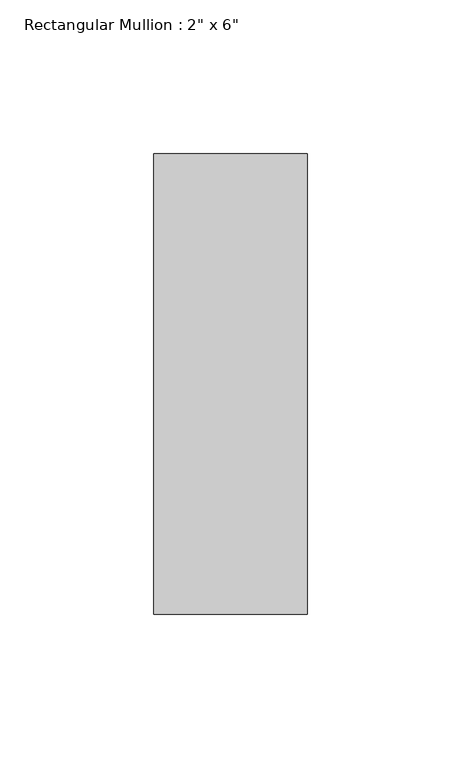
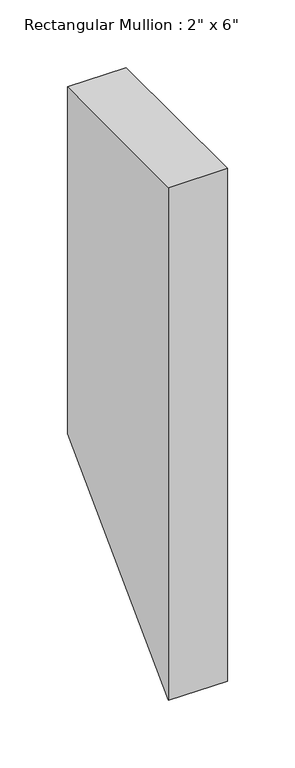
"""IFC4 building model written with IfcOpenShell, lengths in millimetres: member geometry."""

import ifcopenshell
import ifcopenshell.guid

model = None  # the IFC model being written
_history = None  # IfcOwnerHistory: only IFC2X3 demands one
_inside = {}  # id of a spatial element -> (the spatial element, [elements in it])
_under = {}  # id of a project, library or spatial element -> (it, [spatial elements below it])
_declared = {}  # id of a project -> (the project, [libraries it declares])
_typed = {}  # id of a type object -> (the type object, [elements of that type])
_made_of = {}  # id of a material, layer set ... -> (it, [elements and type objects made of it])


def new_model(schema):
    """Start an empty IFC model of exactly this schema.

    Asked for "IFC4X3", IfcOpenShell would pick the latest addendum, in which some entities
    have other attributes; the version numbers below select the first issue.
    IFC2X3 requires an IfcOwnerHistory on every rooted entity: one is made here for all.
    """
    global model, _history
    if schema == "IFC4X3":
        model = ifcopenshell.file(schema_version=(4, 3, 0, 0))
    else:
        model = ifcopenshell.file(schema=schema)
    _inside.clear()
    _under.clear()
    _declared.clear()
    _typed.clear()
    _made_of.clear()
    _history = None
    if model.schema == "IFC2X3":
        org = make("IfcOrganization", Name="unknown")
        user = make(
            "IfcPersonAndOrganization",
            ThePerson=make("IfcPerson", FamilyName="unknown"),
            TheOrganization=org,
        )
        app = make(
            "IfcApplication",
            ApplicationDeveloper=org,
            Version="unknown",
            ApplicationFullName="unknown",
            ApplicationIdentifier="unknown",
        )
        _history = make(
            "IfcOwnerHistory",
            OwningUser=user,
            OwningApplication=app,
            ChangeAction="ADDED",
            CreationDate=0,
        )
    return model


def make(cls, **values):
    """One entity of the class cls with the attributes given. An attribute that is None is left unset."""
    return model.create_entity(
        cls, **{name: value for name, value in values.items() if value is not None}
    )


def rooted(cls, **values):
    """An entity with a GlobalId (a new one), such as an element, a storey or a relation."""
    return make(cls, GlobalId=ifcopenshell.guid.new(), OwnerHistory=_history, **values)


def si_unit(unit_type, name, prefix=None):
    """IfcSIUnit, for example si_unit("LENGTHUNIT", "METRE", prefix="MILLI")."""
    return make("IfcSIUnit", UnitType=unit_type, Prefix=prefix, Name=name)


def assignment(units):
    """IfcUnitAssignment: the units of a project."""
    return None if units is None else make("IfcUnitAssignment", Units=units)


def point(xyz):
    """IfcCartesianPoint."""
    return None if xyz is None else make("IfcCartesianPoint", Coordinates=xyz)


def direction(xyz):
    """IfcDirection."""
    return None if xyz is None else make("IfcDirection", DirectionRatios=xyz)


def frame(location, z_axis=None, x_axis=None):
    """IfcAxis2Placement3D, a coordinate frame: its origin and axes. An axis left out is left unset."""
    return make(
        "IfcAxis2Placement3D",
        Location=point(location),
        Axis=direction(z_axis),
        RefDirection=direction(x_axis),
    )


def origin():
    """The frame at (0, 0, 0) with its axes left unset."""
    return frame((0.0, 0.0, 0.0))


def place(relative_to, where):
    """IfcLocalPlacement: puts the frame where relative to a parent placement (None: the world)."""
    return make(
        "IfcLocalPlacement", PlacementRelTo=relative_to, RelativePlacement=where
    )


def context(
    kind, dimensions, precision=None, world=None, true_north=None, identifier=None
):
    """IfcGeometricRepresentationContext, for example the 3D "Model" context."""
    return make(
        "IfcGeometricRepresentationContext",
        ContextIdentifier=identifier,
        ContextType=kind,
        CoordinateSpaceDimension=dimensions,
        Precision=precision,
        WorldCoordinateSystem=world,
        TrueNorth=true_north,
    )


def project(units=None, contexts=None):
    """IfcProject with its units and contexts."""
    return rooted(
        "IfcProject",
        Name="project",
        RepresentationContexts=contexts,
        UnitsInContext=assignment(units),
    )


def spatial(cls, under=None, at=None, **own):
    """A site, building, storey or space (cls), placed at a placement, below another one or the project."""
    s = rooted(cls, ObjectPlacement=at, **own)
    if under is not None:
        _under.setdefault(under.id(), (under, []))[1].append(s)
    return s


def polyline(points):
    """IfcPolyline through the points."""
    return make("IfcPolyline", Points=[point(p) for p in points])


def outline(outer, holes=None, kind="AREA"):
    """IfcArbitraryClosedProfileDef: a profile drawn as a closed curve; with holes, ...WithVoids."""
    if holes is None:
        return make("IfcArbitraryClosedProfileDef", ProfileType=kind, OuterCurve=outer)
    return make(
        "IfcArbitraryProfileDefWithVoids",
        ProfileType=kind,
        OuterCurve=outer,
        InnerCurves=holes,
    )


def extrude(swept, where, along, depth):
    """IfcExtrudedAreaSolid: the profile swept, set in the frame where, extruded along a direction by depth."""
    return make(
        "IfcExtrudedAreaSolid",
        SweptArea=swept,
        Position=where,
        ExtrudedDirection=direction(along),
        Depth=depth,
    )


def shape(context_of_items, identifier, shape_type, items):
    """IfcShapeRepresentation: the items that make up one representation, for example the "Body"."""
    return make(
        "IfcShapeRepresentation",
        ContextOfItems=context_of_items,
        RepresentationIdentifier=identifier,
        RepresentationType=shape_type,
        Items=items,
    )


def source(mapping_origin, context_of_items, identifier, shape_type, items):
    """IfcRepresentationMap: a shape defined once, which mapped items show again and again."""
    return make(
        "IfcRepresentationMap",
        MappingOrigin=mapping_origin,
        MappedRepresentation=shape(context_of_items, identifier, shape_type, items),
    )


def transform(
    local_origin,
    x_axis=None,
    y_axis=None,
    z_axis=None,
    scale=None,
    scale2=None,
    scale3=None,
    uniform=True,
):
    """IfcCartesianTransformationOperator3D, or its non-uniform kind. x_axis, y_axis, z_axis: its Axis1, 2, 3."""
    if uniform:
        return make(
            "IfcCartesianTransformationOperator3D",
            Axis1=direction(x_axis),
            Axis2=direction(y_axis),
            LocalOrigin=point(local_origin),
            Scale=scale,
            Axis3=direction(z_axis),
        )
    return make(
        "IfcCartesianTransformationOperator3DnonUniform",
        Axis1=direction(x_axis),
        Axis2=direction(y_axis),
        LocalOrigin=point(local_origin),
        Scale=scale,
        Axis3=direction(z_axis),
        Scale2=scale2,
        Scale3=scale3,
    )


def mapped(mapping_source, mapping_target):
    """IfcMappedItem: shows the shape of a source again, moved by a transform."""
    return make(
        "IfcMappedItem", MappingSource=mapping_source, MappingTarget=mapping_target
    )


def made_of(thing, what):
    """Note that an element or type object is made of a material, layer set ...; save() writes the relation."""
    if what is not None:
        _made_of.setdefault(what.id(), (what, []))[1].append(thing)
    return thing


def element(
    cls,
    number,
    at=None,
    inside=None,
    cuts=None,
    type_object=None,
    material=None,
    context=None,
    identifier="Body",
    shape_type=None,
    held_by="IfcProductDefinitionShape",
    body=None,
    shapes=None,
    **own,
):
    """One element of the class cls, such as IfcWall. Its Tag is "e" and its number.

    at: its placement. inside: the storey or other place that contains it. cuts: it is an
    opening in that element (IfcRelVoidsElement). A single representation is given by context,
    identifier, shape_type and body (its items); several are given by shapes. held_by: the class
    of the entity that holds the representations. save() writes the other relations.
    """
    e = rooted(cls, Tag="e%d" % number, ObjectPlacement=at, **own)
    if body is not None:
        shapes = [shape(context, identifier, shape_type, body)]
    if shapes is not None:
        e.Representation = make(held_by, Representations=shapes)
    if inside is not None:
        _inside.setdefault(inside.id(), (inside, []))[1].append(e)
    if cuts is not None:
        rooted(
            "IfcRelVoidsElement", RelatingBuildingElement=cuts, RelatedOpeningElement=e
        )
    if type_object is not None:
        _typed.setdefault(type_object.id(), (type_object, []))[1].append(e)
    return made_of(e, material)


def aggregate(whole, parts):
    """IfcRelAggregates: a whole, such as a stair, and the parts it consists of."""
    return rooted("IfcRelAggregates", RelatingObject=whole, RelatedObjects=parts)


def save(model, path):
    """Write the relations noted so far, then the file.

    IfcRelAggregates (storeys below a building ...), IfcRelContainedInSpatialStructure (elements
    in a storey), IfcRelDefinesByType, IfcRelAssociatesMaterial and IfcRelDeclares: one each for
    every whole, place, type object, material and project.
    """
    for whole, parts in _under.values():
        aggregate(whole, parts)
    for where, things in _inside.values():
        rooted(
            "IfcRelContainedInSpatialStructure",
            RelatedElements=things,
            RelatingStructure=where,
        )
    for kind, things in _typed.values():
        rooted("IfcRelDefinesByType", RelatedObjects=things, RelatingType=kind)
    for what, things in _made_of.values():
        rooted("IfcRelAssociatesMaterial", RelatedObjects=things, RelatingMaterial=what)
    for by, libraries in _declared.values():
        rooted("IfcRelDeclares", RelatingContext=by, RelatedDefinitions=libraries)
    model.write(path)


def member_16a7e1d8(model_context):
    return source(origin(), model_context, "Body", "SweptSolid", [
        extrude(outline(polyline([(0.0, 0.0), (150.0, 0.0), (150.0, -312.9999994), (0.0, -462.9999994), (0.0, 0.0)])), frame((-25.0, 0.0, 0.0), z_axis=(1.0, 0.0, 0.0), x_axis=(0.0, 1.0, 0.0)), (0.0, 0.0, 1.0), 50.0),
    ])


if __name__ == "__main__":
    model = new_model("IFC4")
    model_context = context("Model", 3, world=origin())
    ifc_project = project(units=[si_unit("LENGTHUNIT", "METRE", prefix="MILLI")], contexts=[model_context])
    site = spatial("IfcSite", under=ifc_project)
    building = spatial("IfcBuilding", under=site)
    placement = place(None, origin())
    member_shape = member_16a7e1d8(model_context)
    element("IfcMember", 1, ObjectType="Rectangular Mullion : 2\" x 6\"", at=placement, inside=building, context=model_context, shape_type="MappedRepresentation", body=[
        mapped(member_shape, transform((0.0, 0.0, 0.0), x_axis=(1.0, 0.0, 0.0), y_axis=(0.0, 1.0, 0.0), z_axis=(0.0, 0.0, 1.0))),
    ])
    save(model, "model.ifc")
